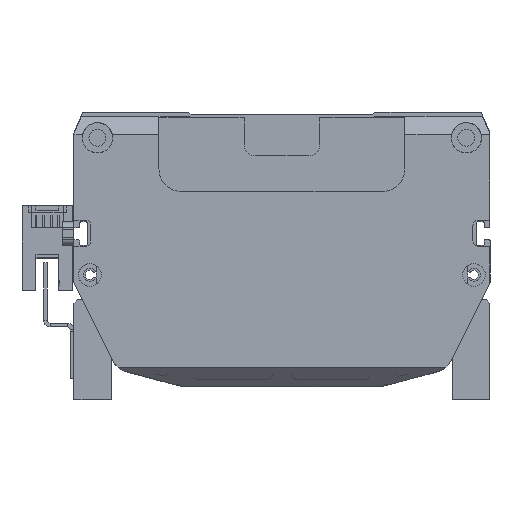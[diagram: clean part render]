
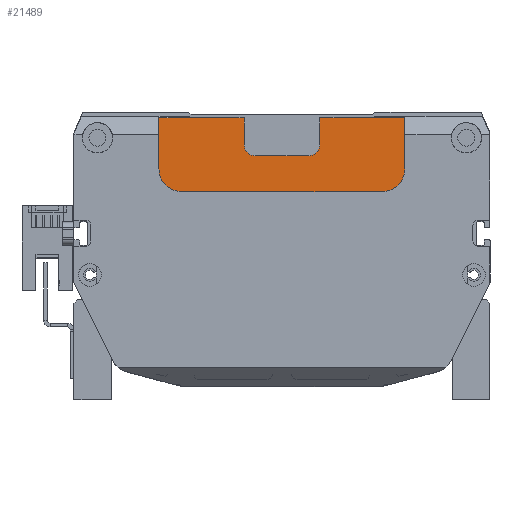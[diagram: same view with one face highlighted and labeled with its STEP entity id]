
A CAD part, front view. The second image highlights one B-rep face of the part: STEP entity #21489.
In plain terms, the highlighted planar face has unit normal (0, -1, 0) as drawn and (0, 0, -1) by its records, which use the part's own axes.
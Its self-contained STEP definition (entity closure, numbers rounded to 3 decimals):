
#438 = ORIENTED_EDGE ( 'NONE', *, *, #9862, .T. ) ;
#1599 = CARTESIAN_POINT ( 'NONE',  ( 83.5, 14.179, 4.5 ) ) ;
#1795 = CARTESIAN_POINT ( 'NONE',  ( 83.5, 0.679, 4.5 ) ) ;
#1915 = CARTESIAN_POINT ( 'NONE',  ( 27., 0.679, 4.5 ) ) ;
#2019 = AXIS2_PLACEMENT_3D ( 'NONE', #16033, #17810, #21259 ) ;
#2032 = EDGE_CURVE ( 'NONE', #19998, #13785, #5855, .T. ) ;
#2301 = ORIENTED_EDGE ( 'NONE', *, *, #18055, .T. ) ;
#2313 = CARTESIAN_POINT ( 'NONE',  ( 24.5, 20.179, 4.5 ) ) ;
#2484 = VERTEX_POINT ( 'NONE', #7258 ) ;
#2734 = VECTOR ( 'NONE', #2807, 1000. ) ;
#2807 = DIRECTION ( 'NONE',  ( 0., 1., 0. ) ) ;
#2988 = CIRCLE ( 'NONE', #5671, 3. ) ;
#3461 = DIRECTION ( 'NONE',  ( -1., 0., 0. ) ) ;
#4114 = VERTEX_POINT ( 'NONE', #1795 ) ;
#4139 = EDGE_CURVE ( 'NONE', #16589, #10184, #11431, .T. ) ;
#4341 = ORIENTED_EDGE ( 'NONE', *, *, #13382, .F. ) ;
#4665 = ORIENTED_EDGE ( 'NONE', *, *, #15720, .T. ) ;
#4690 = CARTESIAN_POINT ( 'NONE',  ( 10.9, 0.679, 4.5 ) ) ;
#4754 = VERTEX_POINT ( 'NONE', #11256 ) ;
#5318 = ORIENTED_EDGE ( 'NONE', *, *, #2032, .T. ) ;
#5485 = DIRECTION ( 'NONE',  ( 0., 0., -1. ) ) ;
#5499 = DIRECTION ( 'NONE',  ( 1., 0., 0. ) ) ;
#5671 = AXIS2_PLACEMENT_3D ( 'NONE', #19402, #5485, #19613 ) ;
#5855 = LINE ( 'NONE', #5983, #18157 ) ;
#5983 = CARTESIAN_POINT ( 'NONE',  ( 10.9, 0.679, 4.5 ) ) ;
#6048 = LINE ( 'NONE', #7166, #15368 ) ;
#6698 = CARTESIAN_POINT ( 'NONE',  ( 41., 7.679, 4.5 ) ) ;
#6720 = CARTESIAN_POINT ( 'NONE',  ( 10.9, 0.679, 4.5 ) ) ;
#6734 = VECTOR ( 'NONE', #5499, 1000. ) ;
#6974 = EDGE_CURVE ( 'NONE', #13785, #21107, #21258, .T. ) ;
#7166 = CARTESIAN_POINT ( 'NONE',  ( 83.5, 20.179, 4.5 ) ) ;
#7258 = CARTESIAN_POINT ( 'NONE',  ( 44., 10.679, 4.5 ) ) ;
#7427 = CARTESIAN_POINT ( 'NONE',  ( 58., 10.679, 4.5 ) ) ;
#7430 = LINE ( 'NONE', #22293, #15094 ) ;
#7613 = EDGE_CURVE ( 'NONE', #21440, #14028, #2988, .T. ) ;
#7626 = DIRECTION ( 'NONE',  ( 0., -1., 0. ) ) ;
#7852 = EDGE_LOOP ( 'NONE', ( #18024, #16394, #18809, #10123, #4341, #17692, #14694, #5318, #21173, #4665, #17843, #2301, #19292, #438 ) ) ;
#8168 = DIRECTION ( 'NONE',  ( 1., 0., 0. ) ) ;
#8516 = EDGE_CURVE ( 'NONE', #19998, #11948, #20332, .T. ) ;
#8592 = DIRECTION ( 'NONE',  ( 1., 0., 0. ) ) ;
#9425 = CARTESIAN_POINT ( 'NONE',  ( 61., 0.679, 4.5 ) ) ;
#9847 = AXIS2_PLACEMENT_3D ( 'NONE', #21269, #17897, #14310 ) ;
#9862 = EDGE_CURVE ( 'NONE', #4114, #10184, #21766, .T. ) ;
#10054 = VERTEX_POINT ( 'NONE', #6698 ) ;
#10123 = ORIENTED_EDGE ( 'NONE', *, *, #12802, .F. ) ;
#10184 = VERTEX_POINT ( 'NONE', #20185 ) ;
#10262 = LINE ( 'NONE', #15300, #16797 ) ;
#10428 = CARTESIAN_POINT ( 'NONE',  ( 61., 7.679, 4.5 ) ) ;
#10663 = VERTEX_POINT ( 'NONE', #2313 ) ;
#10960 = CIRCLE ( 'NONE', #20302, 6. ) ;
#11128 = DIRECTION ( 'NONE',  ( -1., 0., 0. ) ) ;
#11256 = CARTESIAN_POINT ( 'NONE',  ( 77.5, 20.179, 4.5 ) ) ;
#11431 = LINE ( 'NONE', #19235, #21267 ) ;
#11447 = DIRECTION ( 'NONE',  ( 0., 0., -1. ) ) ;
#11761 = CARTESIAN_POINT ( 'NONE',  ( 41., 0.679, 4.5 ) ) ;
#11948 = VERTEX_POINT ( 'NONE', #14951 ) ;
#12526 = CARTESIAN_POINT ( 'NONE',  ( 18.5, 20.179, 4.5 ) ) ;
#12802 = EDGE_CURVE ( 'NONE', #2484, #21440, #10262, .T. ) ;
#13382 = EDGE_CURVE ( 'NONE', #10054, #2484, #17327, .T. ) ;
#13436 = FACE_OUTER_BOUND ( 'NONE', #7852, .T. ) ;
#13785 = VERTEX_POINT ( 'NONE', #18060 ) ;
#14004 = AXIS2_PLACEMENT_3D ( 'NONE', #16201, #19744, #19597 ) ;
#14028 = VERTEX_POINT ( 'NONE', #10428 ) ;
#14310 = DIRECTION ( 'NONE',  ( 1., 0., 0. ) ) ;
#14618 = PLANE ( 'NONE',  #14004 ) ;
#14694 = ORIENTED_EDGE ( 'NONE', *, *, #8516, .F. ) ;
#14890 = VERTEX_POINT ( 'NONE', #1599 ) ;
#14951 = CARTESIAN_POINT ( 'NONE',  ( 41., 0.679, 4.5 ) ) ;
#14971 = LINE ( 'NONE', #12526, #6734 ) ;
#15094 = VECTOR ( 'NONE', #18526, 1000. ) ;
#15300 = CARTESIAN_POINT ( 'NONE',  ( 58., 10.679, 4.5 ) ) ;
#15368 = VECTOR ( 'NONE', #7626, 1000. ) ;
#15720 = EDGE_CURVE ( 'NONE', #21107, #10663, #22151, .T. ) ;
#16033 = CARTESIAN_POINT ( 'NONE',  ( 44., 7.679, 4.5 ) ) ;
#16201 = CARTESIAN_POINT ( 'NONE',  ( 0., 0., 4.5 ) ) ;
#16267 = DIRECTION ( 'NONE',  ( 0., 1., 0. ) ) ;
#16273 = EDGE_CURVE ( 'NONE', #10663, #4754, #14971, .T. ) ;
#16394 = ORIENTED_EDGE ( 'NONE', *, *, #21239, .F. ) ;
#16409 = EDGE_CURVE ( 'NONE', #11948, #10054, #20444, .T. ) ;
#16589 = VERTEX_POINT ( 'NONE', #9425 ) ;
#16592 = VECTOR ( 'NONE', #16267, 1000. ) ;
#16797 = VECTOR ( 'NONE', #20661, 1000. ) ;
#17327 = CIRCLE ( 'NONE', #2019, 3. ) ;
#17393 = DIRECTION ( 'NONE',  ( 1., 0., 0. ) ) ;
#17692 = ORIENTED_EDGE ( 'NONE', *, *, #16409, .F. ) ;
#17810 = DIRECTION ( 'NONE',  ( 0., 0., -1. ) ) ;
#17843 = ORIENTED_EDGE ( 'NONE', *, *, #16273, .T. ) ;
#17897 = DIRECTION ( 'NONE',  ( 0., 0., -1. ) ) ;
#18024 = ORIENTED_EDGE ( 'NONE', *, *, #4139, .F. ) ;
#18055 = EDGE_CURVE ( 'NONE', #4754, #14890, #10960, .T. ) ;
#18060 = CARTESIAN_POINT ( 'NONE',  ( 18.5, 0.679, 4.5 ) ) ;
#18157 = VECTOR ( 'NONE', #11128, 1000. ) ;
#18195 = VECTOR ( 'NONE', #3461, 1000. ) ;
#18526 = DIRECTION ( 'NONE',  ( 0., -1., 0. ) ) ;
#18809 = ORIENTED_EDGE ( 'NONE', *, *, #7613, .F. ) ;
#19235 = CARTESIAN_POINT ( 'NONE',  ( 10.9, 0.679, 4.5 ) ) ;
#19236 = VECTOR ( 'NONE', #8168, 1000. ) ;
#19292 = ORIENTED_EDGE ( 'NONE', *, *, #20718, .T. ) ;
#19402 = CARTESIAN_POINT ( 'NONE',  ( 58., 7.679, 4.5 ) ) ;
#19597 = DIRECTION ( 'NONE',  ( 1., 0., 0. ) ) ;
#19613 = DIRECTION ( 'NONE',  ( 1., 0., 0. ) ) ;
#19744 = DIRECTION ( 'NONE',  ( 0., 0., 1. ) ) ;
#19878 = CARTESIAN_POINT ( 'NONE',  ( 18.5, 20.179, 4.5 ) ) ;
#19998 = VERTEX_POINT ( 'NONE', #1915 ) ;
#20061 = CARTESIAN_POINT ( 'NONE',  ( 18.5, 14.179, 4.5 ) ) ;
#20185 = CARTESIAN_POINT ( 'NONE',  ( 75., 0.679, 4.5 ) ) ;
#20302 = AXIS2_PLACEMENT_3D ( 'NONE', #21301, #11447, #8592 ) ;
#20332 = LINE ( 'NONE', #4690, #19236 ) ;
#20444 = LINE ( 'NONE', #11761, #2734 ) ;
#20661 = DIRECTION ( 'NONE',  ( 1., 0., 0. ) ) ;
#20718 = EDGE_CURVE ( 'NONE', #14890, #4114, #6048, .T. ) ;
#21107 = VERTEX_POINT ( 'NONE', #20061 ) ;
#21173 = ORIENTED_EDGE ( 'NONE', *, *, #6974, .T. ) ;
#21239 = EDGE_CURVE ( 'NONE', #14028, #16589, #7430, .T. ) ;
#21258 = LINE ( 'NONE', #19878, #16592 ) ;
#21259 = DIRECTION ( 'NONE',  ( 1., 0., 0. ) ) ;
#21267 = VECTOR ( 'NONE', #17393, 1000. ) ;
#21269 = CARTESIAN_POINT ( 'NONE',  ( 24.5, 14.179, 4.5 ) ) ;
#21301 = CARTESIAN_POINT ( 'NONE',  ( 77.5, 14.179, 4.5 ) ) ;
#21440 = VERTEX_POINT ( 'NONE', #7427 ) ;
#21489 = ADVANCED_FACE ( 'NONE', ( #13436 ), #14618, .F. ) ;
#21766 = LINE ( 'NONE', #6720, #18195 ) ;
#22151 = CIRCLE ( 'NONE', #9847, 6. ) ;
#22293 = CARTESIAN_POINT ( 'NONE',  ( 61., 0.679, 4.5 ) ) ;
